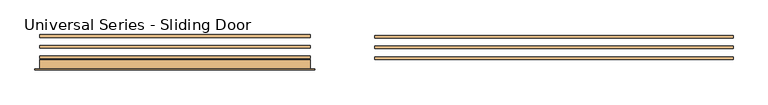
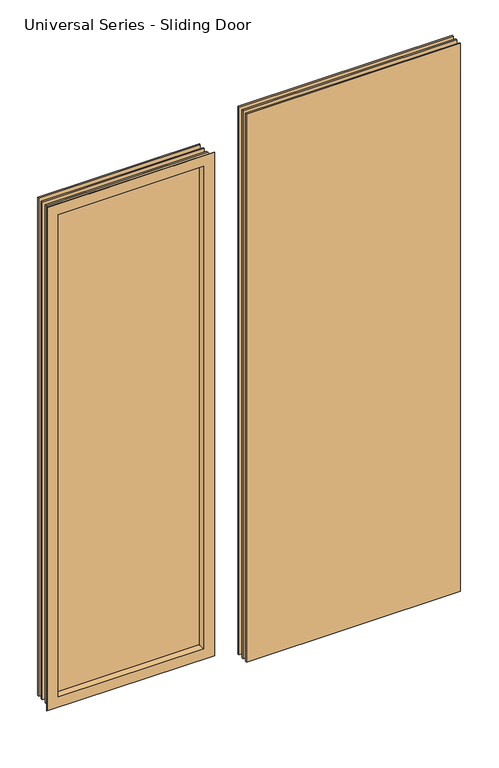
"""IFC4 building model written with IfcOpenShell, lengths in millimetres: door geometry, Universal Series - Sliding Door : Universal Sliding Door - Rainware White."""

from ifc_helpers import new_model, si_unit, frame, origin, place, context, project, spatial, polyline, outline, extrude, faceted_brep, source, transform, mapped, element, save


def universal_series_sliding_door_7e6a51d2(model_context):
    return source(origin(), model_context, "Body", "SolidModel", [
        extrude(outline(polyline([(20.6375, 8.334375), (20.6375, 13.49375), (733.425, 13.49375), (733.425, 8.334375), (20.6375, 8.334375)])), frame((0.0, 0.0, 52.3875), z_axis=(0.0, 0.0, 1.0), x_axis=(1.0, 0.0, 0.0)), (0.0, 0.0, 1.0), 1927.225),
        extrude(outline(polyline([(20.6375, -34.13125), (20.6375, -28.971875), (733.425, -28.971875), (733.425, -34.13125), (20.6375, -34.13125)])), frame((0.0, 0.0, 52.3875), z_axis=(0.0, 0.0, 1.0), x_axis=(1.0, 0.0, 0.0)), (0.0, 0.0, 1.0), 1927.225),
        extrude(outline(polyline([(20.6375, -12.8984375), (20.6375, -7.7390625), (733.425, -7.7390625), (733.425, -12.8984375), (20.6375, -12.8984375)])), frame((0.0, 0.0, 52.3875), z_axis=(0.0, 0.0, 1.0), x_axis=(1.0, 0.0, 0.0)), (0.0, 0.0, 1.0), 1927.225),
        extrude(outline(polyline([(-646.1125, 9.921875), (-646.1125, 15.08125), (-107.95, 15.08125), (-107.95, 9.921875), (-646.1125, 9.921875)])), frame((0.0, 0.0, 139.7), z_axis=(0.0, 0.0, 1.0), x_axis=(1.0, 0.0, 0.0)), (0.0, 0.0, 1.0), 1751.0125),
        extrude(outline(polyline([(-646.1125, -32.54375), (-646.1125, -27.384375), (-107.95, -27.384375), (-107.95, -32.54375), (-646.1125, -32.54375)])), frame((0.0, 0.0, 139.7), z_axis=(0.0, 0.0, 1.0), x_axis=(1.0, 0.0, 0.0)), (0.0, 0.0, 1.0), 1751.0125),
        extrude(outline(polyline([(-646.1125, -11.3109375), (-646.1125, -6.1515625), (-107.95, -6.1515625), (-107.95, -11.3109375), (-646.1125, -11.3109375)])), frame((0.0, 0.0, 139.7), z_axis=(0.0, 0.0, 1.0), x_axis=(1.0, 0.0, 0.0)), (0.0, 0.0, 1.0), 1751.0125),
        faceted_brep([(-134.9375, -54.76875, 1863.725), (-136.525, -32.54375, 1862.1375), (-136.525, -32.54375, 168.275), (-134.9375, -54.76875, 166.6875), (-617.5375, -32.54375, 168.275), (-619.125, -54.76875, 166.6875), (-107.95, -34.13125, 139.7), (-646.1125, -34.13125, 139.7), (-617.5375, -32.54375, 1862.1375), (-619.125, -54.76875, 1863.725), (-98.425, -54.76875, 130.175), (-98.425, -54.76875, 1900.2375), (-655.6375, -54.76875, 1900.2375), (-655.6375, -54.76875, 130.175), (-107.95, -34.13125, 1890.7125), (-107.95, -53.18125, 139.7), (-646.1125, -53.18125, 139.7), (-646.1125, -34.13125, 1890.7125), (-107.95, -53.18125, 1890.7125), (-655.6375, -53.18125, 130.175), (-655.6375, -53.18125, 1900.2375), (-98.425, -53.18125, 1900.2375), (-98.425, -53.18125, 130.175), (-646.1125, -53.18125, 1890.7125)], [[[0, 1, 2, 3]], [[3, 2, 4, 5]], [[2, 6, 7, 4]], [[5, 4, 8, 9]], [[10, 11, 12, 13], [5, 9, 0, 3]], [[1, 14, 6, 2]], [[6, 15, 16, 7]], [[4, 7, 17, 8]], [[14, 18, 15, 6]], [[19, 20, 21, 22], [15, 18, 23, 16]], [[7, 16, 23, 17]], [[21, 11, 10, 22]], [[22, 10, 13, 19]], [[19, 13, 12, 20]], [[20, 12, 11, 21]], [[17, 23, 18, 14]], [[8, 17, 14, 1]], [[9, 8, 1, 0]]]),
    ])


if __name__ == "__main__":
    model = new_model("IFC4")
    model_context = context("Model", 3, world=origin())
    ifc_project = project(units=[si_unit("LENGTHUNIT", "METRE", prefix="MILLI")], contexts=[model_context])
    site = spatial("IfcSite", under=ifc_project)
    building = spatial("IfcBuilding", under=site)
    placement = place(None, origin())
    universal_series_sliding_door_shape = universal_series_sliding_door_7e6a51d2(model_context)
    element("IfcDoor", 1, ObjectType="Universal Series - Sliding Door : Universal Sliding Door - Rainware White", at=placement, inside=building, context=model_context, shape_type="MappedRepresentation", body=[
        mapped(universal_series_sliding_door_shape, transform((0.0, 0.0, 0.0), x_axis=(1.0, 0.0, 0.0), y_axis=(0.0, 1.0, 0.0), z_axis=(0.0, 0.0, 1.0))),
    ])
    save(model, "model.ifc")
